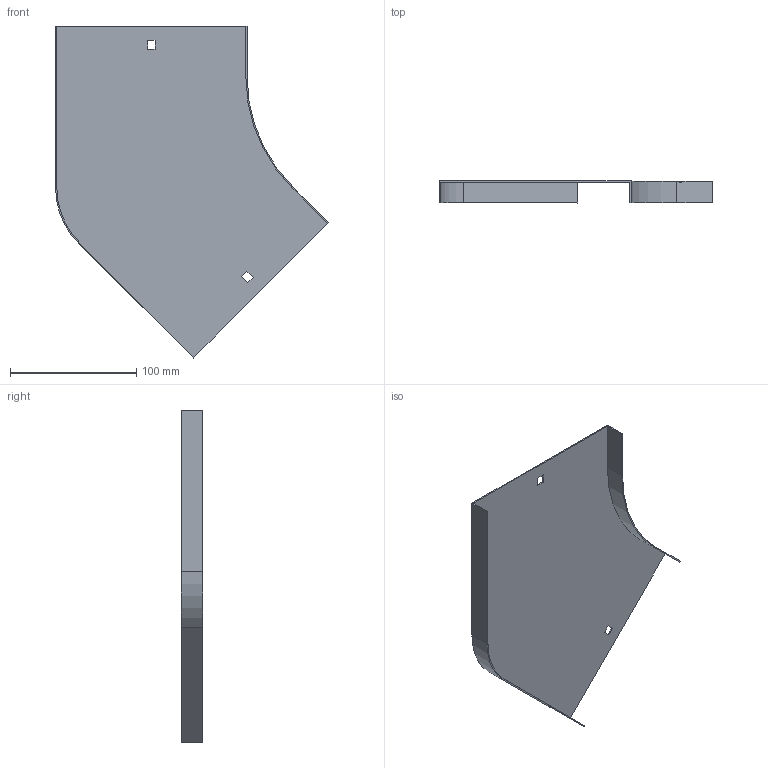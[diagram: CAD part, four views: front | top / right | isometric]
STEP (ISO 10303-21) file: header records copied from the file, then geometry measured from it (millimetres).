
FILE_DESCRIPTION (( 'STEP AP214' ), '1' );
FILE_NAME ('OP4_150.step', '2025-07-16T09:14:12', ( '' ), ( '' ), 'SwSTEP 2.0', 'SolidWorks 2023', '' );
FILE_SCHEMA (( 'AUTOMOTIVE_DESIGN' ));
Length unit declared in the file: millimetre
Products named in the file (1): OP4_150
Bounding box: 216.6 x 17 x 263.45 mm (x, y, z)
Volume: 45237.1 mm3; surface area: 91377.5 mm2
Topology: 1 solids, 1 shells, 26 faces, 72 edges, 48 vertices
Faces by surface type: plane 22, cylinder 4
Entity records: 855 total; most frequent: CARTESIAN_POINT 147, ORIENTED_EDGE 144, DIRECTION 134, EDGE_CURVE 72, LINE 64, VECTOR 64, VERTEX_POINT 48, AXIS2_PLACEMENT_3D 35
